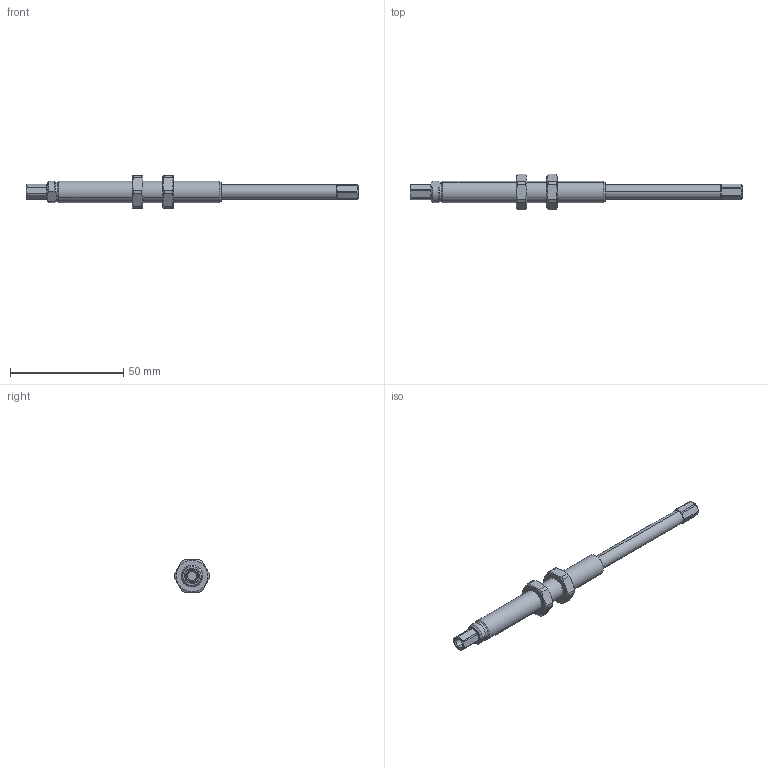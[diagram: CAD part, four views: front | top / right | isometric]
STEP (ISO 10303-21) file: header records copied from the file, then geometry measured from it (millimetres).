
FILE_DESCRIPTION (( 'STEP AP203' ), '1' );
FILE_NAME ('LC10X50-PUBLIC.STEP', '2011-06-24T14:33:22', ( '' ), ( '' ), 'SwSTEP 2.0', 'SolidWorks 2011', '' );
FILE_SCHEMA (( 'CONFIG_CONTROL_DESIGN' ));
Length unit declared in the file: inch
Products named in the file (1): LC10X50-PUBLIC
Bounding box: 146.69 x 15.75 x 14.38 mm (x, y, z)
Volume: 8306.7 mm3; surface area: 4599 mm2
Topology: 1 solids, 1 shells, 107 faces, 278 edges, 182 vertices
Faces by surface type: cylinder 40, plane 39, cone 28
Entity records: 3691 total; most frequent: CARTESIAN_POINT 1024, ORIENTED_EDGE 556, DIRECTION 530, EDGE_CURVE 278, AXIS2_PLACEMENT_3D 216, VERTEX_POINT 182, EDGE_LOOP 116, CIRCLE 108
